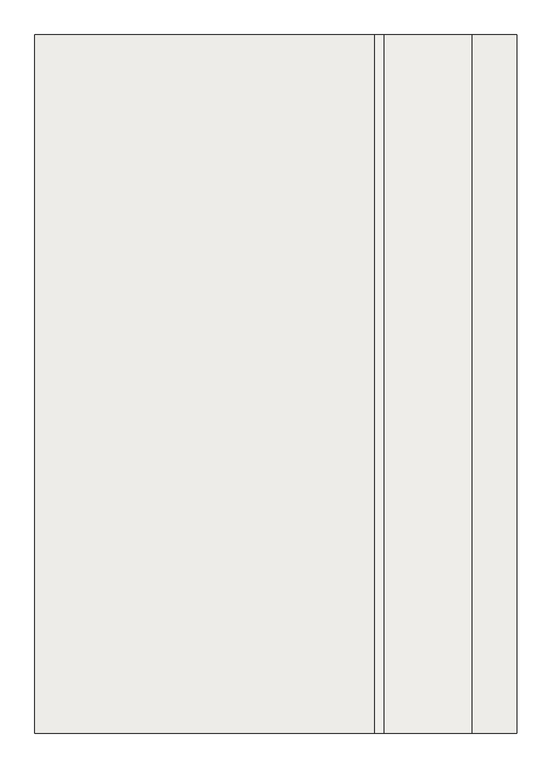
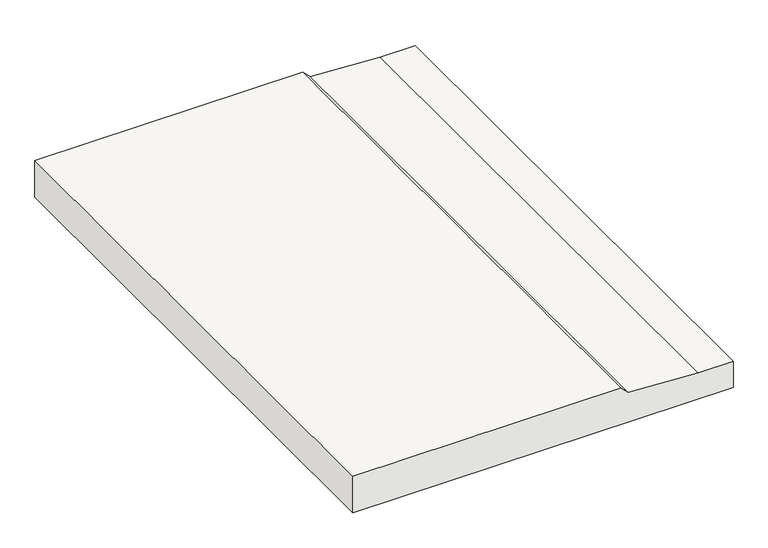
"""IFC4 building model written with IfcOpenShell, lengths in millimetres: slab geometry, 楼板 - 滲漏室 : 楼板 - 滲漏室."""

from ifc_helpers import new_model, si_unit, frame, origin, place, context, project, spatial, polyline, outline, extrude, source, transform, mapped, element, save


def slab_2753d4e6(model_context):
    return source(origin(), model_context, "Body", "SweptSolid", [
        extrude(outline(polyline([(700.0, 3984.9244924), (700.0, 3084.9244924), (800.0, 1284.9244924), (1000.0, 1084.9244924), (1000.0, -5815.0755076), (0.0, -5815.0755076), (0.0, 3984.9244924), (700.0, 3984.9244924)])), frame((0.0, -8966.1868858, 0.0), z_axis=(0.0, 1.0, 0.0), x_axis=(0.0, 0.0, 1.0)), (0.0, 0.0, 1.0), 14200.0),
    ])


if __name__ == "__main__":
    model = new_model("IFC4")
    model_context = context("Model", 3, world=origin())
    ifc_project = project(units=[si_unit("LENGTHUNIT", "METRE", prefix="MILLI")], contexts=[model_context])
    site = spatial("IfcSite", under=ifc_project)
    building = spatial("IfcBuilding", under=site)
    placement = place(None, origin())
    slab_shape = slab_2753d4e6(model_context)
    element("IfcSlab", 1, ObjectType="楼板 - 滲漏室 : 楼板 - 滲漏室", at=placement, inside=building, context=model_context, shape_type="MappedRepresentation", body=[
        mapped(slab_shape, transform((0.0, 0.0, 0.0), x_axis=(1.0, 0.0, 0.0), y_axis=(0.0, 1.0, 0.0), z_axis=(0.0, 0.0, 1.0))),
    ])
    save(model, "model.ifc")
